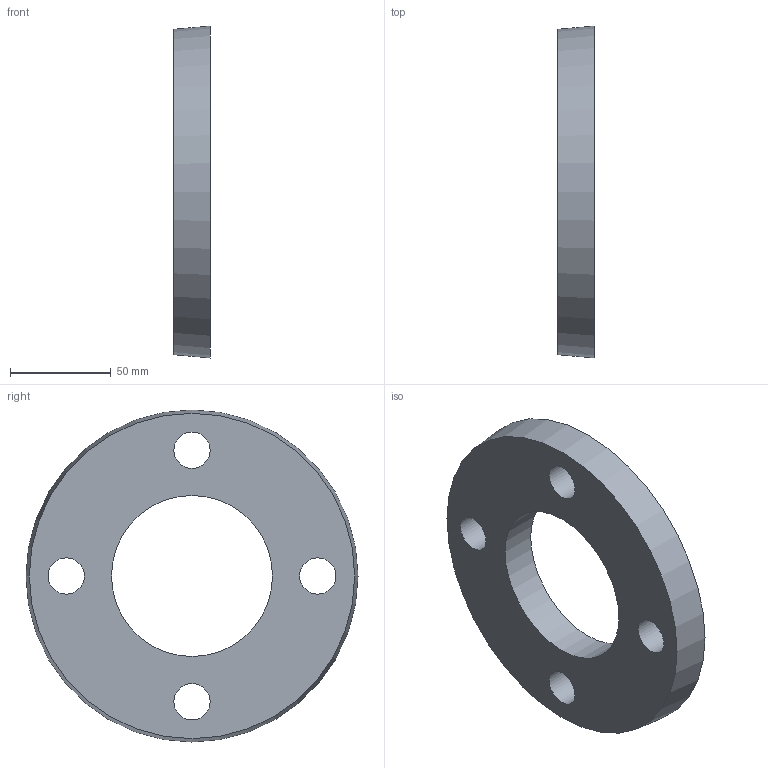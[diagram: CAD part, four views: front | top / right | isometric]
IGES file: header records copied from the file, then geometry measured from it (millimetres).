
Global section: file name: 059000063.ipt; native system: Autodesk Inventor 2015; preprocessor: unknown; author: KIM; date: 20171207.165915; units: millimetre
Bounding box: 18 x 165 x 165 mm (x, y, z)
Volume: 268438.4 mm3; surface area: 47700.7 mm2
Topology: 1 solids, 1 shells, 8 faces, 20 edges, 14 vertices
Faces by surface type: revolution 5, plane 2, cone 1
